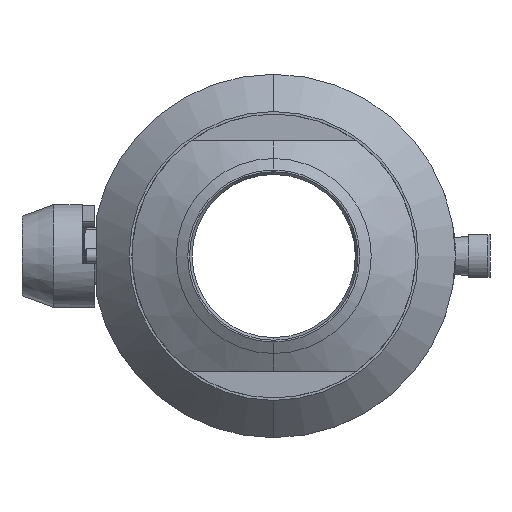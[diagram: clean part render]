
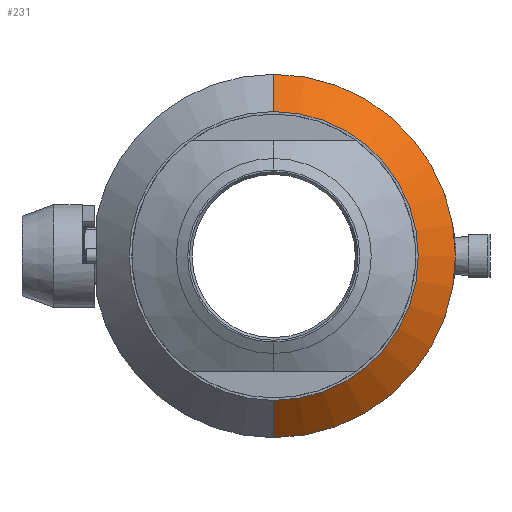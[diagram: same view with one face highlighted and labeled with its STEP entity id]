
A CAD part, left-side view. The second image highlights one B-rep face of the part: STEP entity #231.
In plain terms, the highlighted conical face has half-angle 45 degrees and reference radius 92 mm.
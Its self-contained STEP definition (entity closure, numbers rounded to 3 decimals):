
#231=ADVANCED_FACE('',(#616),#618,.T.);
#616=FACE_OUTER_BOUND('',#617,.T.);
#617=EDGE_LOOP('',(#2096,#2097,#2098,#2099));
#618=CONICAL_SURFACE('',#619,92.,0.785);
#619=AXIS2_PLACEMENT_3D('',#620,#621,#622);
#620=CARTESIAN_POINT('',(-38.048,-7.581,1.127));
#621=DIRECTION('',(1.,-0.,0.));
#622=DIRECTION('',(0.,0.,-1.));
#2096=ORIENTED_EDGE('',*,*,#2953,.F.);
#2097=ORIENTED_EDGE('',*,*,#2999,.T.);
#2098=ORIENTED_EDGE('',*,*,#2957,.T.);
#2099=ORIENTED_EDGE('',*,*,#2989,.F.);
#2953=EDGE_CURVE('',#3440,#3442,#3443,.T.);
#2957=EDGE_CURVE('',#3439,#3448,#3450,.T.);
#2989=EDGE_CURVE('',#3442,#3448,#3508,.T.);
#2999=EDGE_CURVE('',#3440,#3439,#3522,.T.);
#3439=VERTEX_POINT('',#4236);
#3440=VERTEX_POINT('',#4237);
#3442=VERTEX_POINT('',#4242);
#3443=LINE('',#4243,#4244);
#3448=VERTEX_POINT('',#4295);
#3450=LINE('',#4300,#4301);
#3508=CIRCLE('',#4984,102.5);
#3522=CIRCLE('',#5271,81.5);
#4236=CARTESIAN_POINT('',(-48.548,-7.581,-80.373));
#4237=CARTESIAN_POINT('',(-48.548,-7.581,82.627));
#4242=CARTESIAN_POINT('',(-27.548,-7.581,103.627));
#4243=CARTESIAN_POINT('',(-48.548,-7.581,82.627));
#4244=VECTOR('',#4245,1.);
#4245=DIRECTION('',(0.707,0.,0.707));
#4295=CARTESIAN_POINT('',(-27.548,-7.581,-101.373));
#4300=CARTESIAN_POINT('',(-48.548,-7.581,-80.373));
#4301=VECTOR('',#4302,1.);
#4302=DIRECTION('',(0.707,0.,-0.707));
#4984=AXIS2_PLACEMENT_3D('',#4985,#4986,#4987);
#4985=CARTESIAN_POINT('',(-27.548,-7.581,1.127));
#4986=DIRECTION('',(1.,0.,0.));
#4987=DIRECTION('',(-0.,0.,1.));
#5271=AXIS2_PLACEMENT_3D('',#5272,#5273,#5274);
#5272=CARTESIAN_POINT('',(-48.548,-7.581,1.127));
#5273=DIRECTION('',(1.,-0.,0.));
#5274=DIRECTION('',(0.,0.,1.));
